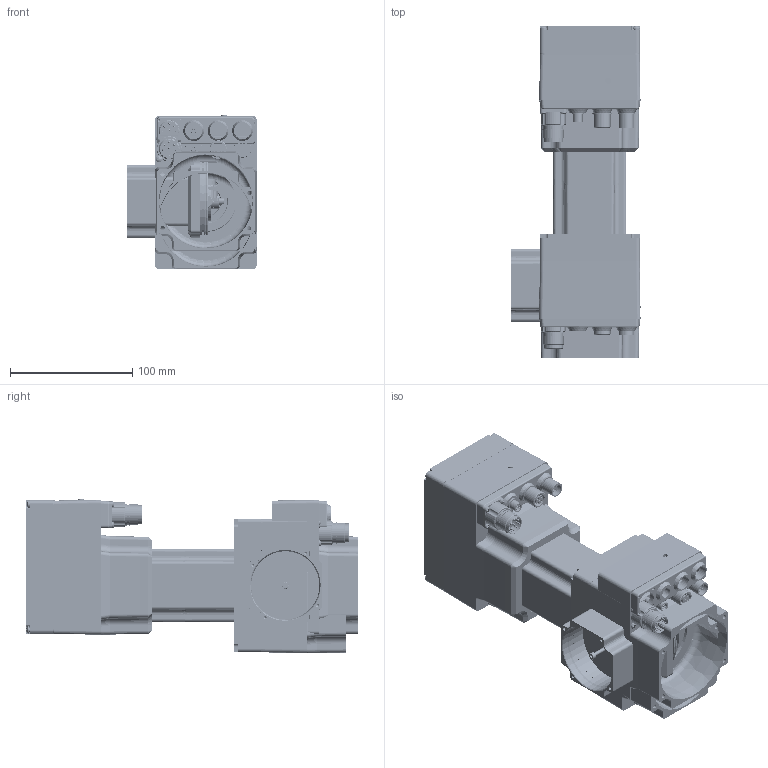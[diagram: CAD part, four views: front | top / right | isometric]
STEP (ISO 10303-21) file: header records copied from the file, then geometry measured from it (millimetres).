
FILE_DESCRIPTION( ( 'Unknown' ), '1' );
FILE_NAME( 'C:/Users/dotti/Desktop/Q0A175/Q0A175_0,65.stp', 'Unknown', ( 'Unknown' ), ( 'Unknown' ), 'PSStep 14.0', 'Unknown', ' ' );
FILE_SCHEMA( ( 'AUTOMOTIVE_DESIGN { 1 0 10303 214 1 1 1 1 }' ) );
Length unit declared in the file: millimetre
Products named in the file (50): T00273; Assem1; 005117000974; N54236; CN M23 PAN-POT BEGA 906 4+5p; VECST-8112 M  2,5 x 12; 005117000476; G00030; Anello-elastico-chiuso  32; A-Ela  15; Vite a brugola testa cil 8,8 -  M  3 x 18; Vite a brugola testa cil 8,8 -  M  3 x 18-oa0; Vite a brugola testa cil 8,8 -  M  3 x 18-oa1; Vite a brugola testa cil 8,8 -  M  3 x 18-oa2; LI-PIA   3x3 x 15; 007803003640; 007055000370; CUSC_15_32_9_6002_ZZ; CUSC_10_26_8_6000_ZZ; Vite a brugola testa cil 8,8 -  M  3 x 40; N27027; N45018; Vite a brugola testa cil 8,8 -  M  3 x 10; Anello OR 1,78 D47,37-2187-oa3; Anello OR 1,78 D47,37-2187-oa4; Anello OR 1,78 D47,37-2187-oa5; Anello OR 1,78 D72,75-2287-oa6; 005007000200; anello di rasamento 19_26_0,3; N35217; Anello OR 1,78 D25,12-2100-oa7; VECST-8112 M  3 x 30; 003016000054; 003251021030; LI-PIA   4x4 x 18; 003003007268; 003120002013; N54239
Bounding box: 105.75 x 271.88 x 126.21 mm (x, y, z)
Volume: 914875.8 mm3; surface area: 523940.3 mm2
Topology: 120 solids, 124 shells, 7904 faces, 21406 edges, 14010 vertices
Faces by surface type: plane 4252, cylinder 2698, cone 367, bspline 319, torus 219, sphere 49
Full cylindrical faces by diameter (mm): 1 x39, 1.5 x42, 1.7 x34, 2.4 x24, 2.459 x63, 2.5 x25, 2.7 x12, 2.9 x3, 3 x29, 3.242 x8, 3.5 x54, 4 x5, 4.2 x2, 5 x11, 5.5 x23, 5.65 x4, 6 x28, 8 x3, 8.5 x9, 8.75 x3, 9 x6, 10 x7, 10.001 x2, 11 x17, 11.9 x6, 12 x9, 14 x6, 14.3 x2, 14.4 x3, 14.5 x3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
Entity records: 111962 total; most frequent: CARTESIAN_POINT 29188, ORIENTED_EDGE 14312, DIRECTION 14227, EDGE_CURVE 7156, AXIS2_PLACEMENT_3D 5155, VERTEX_POINT 4905, LINE 3917, VECTOR 3917
